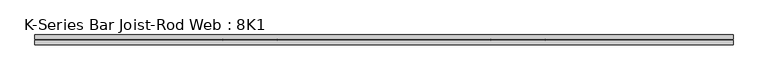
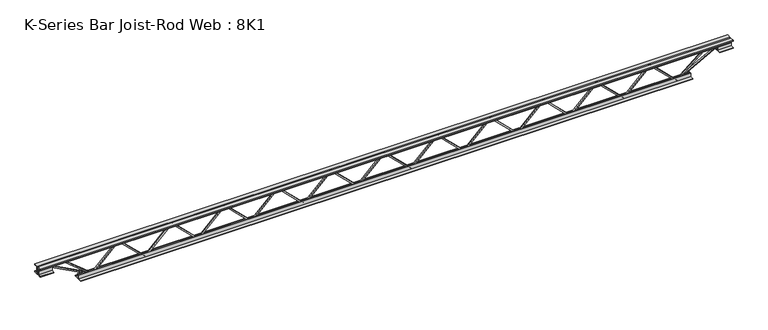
"""IFC4 building model written with IfcOpenShell, lengths in millimetres: beam geometry, K-Series Bar Joist-Rod Web : 8K1."""

from ifc_helpers import new_model, si_unit, frame, origin, place, context, project, spatial, polyline, outline, extrude, source, transform, mapped, element, save


def k_series_bar_joist_rod_web_8k1_28a673dc(model_context):
    return source(origin(), model_context, "Body", "SweptSolid", [
        extrude(outline(polyline([(-90.4875, 1404.3922228), (-100.0125, 1404.3922228), (-100.0125, 1409.5125828), (90.4875, 1603.7900432), (90.4875, 1606.2493231), (-100.0125, 1800.5267835), (-100.0125, 1805.6471436), (-90.4875, 1805.6471436), (-90.4875, 1804.4175036), (100.0125, 1610.1400432), (100.0125, 1599.8993231), (-90.4875, 1405.6218627), (-90.4875, 1404.3922228)])), frame((0.0, -4.7625, 0.0), z_axis=(0.0, 1.0, 0.0), x_axis=(0.0, 0.0, 1.0)), (0.0, 0.0, 1.0), 9.525),
        extrude(outline(polyline([(-90.4875, 1003.137302), (-100.0125, 1003.137302), (-100.0125, 1008.257662), (90.4875, 1202.5351224), (90.4875, 1204.9944023), (-100.0125, 1399.2718627), (-100.0125, 1404.3922228), (-90.4875, 1404.3922228), (-90.4875, 1403.1625828), (100.0125, 1208.8851224), (100.0125, 1198.6444023), (-90.4875, 1004.3669419), (-90.4875, 1003.137302)])), frame((0.0, -4.7625, 0.0), z_axis=(0.0, 1.0, 0.0), x_axis=(0.0, 0.0, 1.0)), (0.0, 0.0, 1.0), 9.525),
        extrude(outline(polyline([(-90.4875, 601.8823812), (-100.0125, 601.8823812), (-100.0125, 607.0027412), (90.4875, 801.2802016), (90.4875, 803.7394815), (-100.0125, 998.0169419), (-100.0125, 1003.137302), (-90.4875, 1003.137302), (-90.4875, 1001.907662), (100.0125, 807.6302016), (100.0125, 797.3894815), (-90.4875, 603.1120211), (-90.4875, 601.8823812)])), frame((0.0, -4.7625, 0.0), z_axis=(0.0, 1.0, 0.0), x_axis=(0.0, 0.0, 1.0)), (0.0, 0.0, 1.0), 9.525),
        extrude(outline(polyline([(-90.4875, 200.6274604), (-100.0125, 200.6274604), (-100.0125, 205.7478205), (90.4875, 400.0252809), (90.4875, 402.4845607), (-100.0125, 596.7620211), (-100.0125, 601.8823812), (-90.4875, 601.8823812), (-90.4875, 600.6527412), (100.0125, 406.3752809), (100.0125, 396.1345607), (-90.4875, 201.8571003), (-90.4875, 200.6274604)])), frame((0.0, -4.7625, 0.0), z_axis=(0.0, 1.0, 0.0), x_axis=(0.0, 0.0, 1.0)), (0.0, 0.0, 1.0), 9.525),
        extrude(outline(polyline([(-90.4875, -200.6274604), (-100.0125, -200.6274604), (-100.0125, -195.5071003), (90.4875, -1.2296399), (90.4875, 1.2296399), (-100.0125, 195.5071003), (-100.0125, 200.6274604), (-90.4875, 200.6274604), (-90.4875, 199.3978205), (100.0125, 5.1203601), (100.0125, -5.1203601), (-90.4875, -199.3978205), (-90.4875, -200.6274604)])), frame((0.0, -4.7625, 0.0), z_axis=(0.0, 1.0, 0.0), x_axis=(0.0, 0.0, 1.0)), (0.0, 0.0, 1.0), 9.525),
        extrude(outline(polyline([(-90.4875, -601.8823812), (-100.0125, -601.8823812), (-100.0125, -596.7620211), (90.4875, -402.4845607), (90.4875, -400.0252809), (-100.0125, -205.7478205), (-100.0125, -200.6274604), (-90.4875, -200.6274604), (-90.4875, -201.8571003), (100.0125, -396.1345607), (100.0125, -406.3752809), (-90.4875, -600.6527412), (-90.4875, -601.8823812)])), frame((0.0, -4.7625, 0.0), z_axis=(0.0, 1.0, 0.0), x_axis=(0.0, 0.0, 1.0)), (0.0, 0.0, 1.0), 9.525),
        extrude(outline(polyline([(-90.4875, -1003.137302), (-100.0125, -1003.137302), (-100.0125, -998.0169419), (90.4875, -803.7394815), (90.4875, -801.2802016), (-100.0125, -607.0027412), (-100.0125, -601.8823812), (-90.4875, -601.8823812), (-90.4875, -603.1120211), (100.0125, -797.3894815), (100.0125, -807.6302016), (-90.4875, -1001.907662), (-90.4875, -1003.137302)])), frame((0.0, -4.7625, 0.0), z_axis=(0.0, 1.0, 0.0), x_axis=(0.0, 0.0, 1.0)), (0.0, 0.0, 1.0), 9.525),
        extrude(outline(polyline([(-90.4875, -1404.3922228), (-100.0125, -1404.3922228), (-100.0125, -1399.2718627), (90.4875, -1204.9944023), (90.4875, -1202.5351224), (-100.0125, -1008.257662), (-100.0125, -1003.137302), (-90.4875, -1003.137302), (-90.4875, -1004.3669419), (100.0125, -1198.6444023), (100.0125, -1208.8851224), (-90.4875, -1403.1625828), (-90.4875, -1404.3922228)])), frame((0.0, -4.7625, 0.0), z_axis=(0.0, 1.0, 0.0), x_axis=(0.0, 0.0, 1.0)), (0.0, 0.0, 1.0), 9.525),
        extrude(outline(polyline([(-90.4875, -1805.6471436), (-100.0125, -1805.6471436), (-100.0125, -1800.5267835), (90.4875, -1606.2493231), (90.4875, -1603.7900432), (-100.0125, -1409.5125828), (-100.0125, -1404.3922228), (-90.4875, -1404.3922228), (-90.4875, -1405.6218627), (100.0125, -1599.8993231), (100.0125, -1610.1400432), (-90.4875, -1804.4175036), (-90.4875, -1805.6471436)])), frame((0.0, -4.7625, 0.0), z_axis=(0.0, 1.0, 0.0), x_axis=(0.0, 0.0, 1.0)), (0.0, 0.0, 1.0), 9.525),
        extrude(outline(polyline([(-90.4875, 1805.6471436), (-100.0125, 1805.6471436), (-100.0125, 1810.7675036), (90.4875, 2005.044964), (90.4875, 2007.5042439), (-100.0125, 2201.7817043), (-100.0125, 2206.9020644), (-90.4875, 2206.9020644), (-90.4875, 2205.6724244), (100.0125, 2011.394964), (100.0125, 2001.1542439), (-90.4875, 1806.8767835), (-90.4875, 1805.6471436)])), frame((0.0, -4.7625, 0.0), z_axis=(0.0, 1.0, 0.0), x_axis=(0.0, 0.0, 1.0)), (0.0, 0.0, 1.0), 9.525),
        extrude(outline(polyline([(-90.4875, -2206.9020644), (-100.0125, -2206.9020644), (-100.0125, -2201.7817043), (90.4875, -2007.5042439), (90.4875, -2005.044964), (-100.0125, -1810.7675036), (-100.0125, -1805.6471436), (-90.4875, -1805.6471436), (-90.4875, -1806.8767835), (100.0125, -2001.1542439), (100.0125, -2011.394964), (-90.4875, -2205.6724244), (-90.4875, -2206.9020644)])), frame((0.0, -4.7625, 0.0), z_axis=(0.0, 1.0, 0.0), x_axis=(0.0, 0.0, 1.0)), (0.0, 0.0, 1.0), 9.525),
        extrude(outline(polyline([(4.7625, 101.6), (36.5125, 101.6), (36.5125, 95.25), (11.1125, 95.25), (11.1125, 69.85), (4.7625, 69.85), (4.7625, 101.6)])), frame((-2613.3020644, 0.0, 0.0), z_axis=(1.0, 0.0, 0.0), x_axis=(0.0, 1.0, 0.0)), (0.0, 0.0, 1.0), 5226.6041288),
        extrude(outline(polyline([(-4.7625, 101.6), (-4.7625, 69.85), (-11.1125, 69.85), (-11.1125, 95.25), (-36.5125, 95.25), (-36.5125, 101.6), (-4.7625, 101.6)])), frame((-2613.3020644, 0.0, 0.0), z_axis=(1.0, 0.0, 0.0), x_axis=(0.0, 1.0, 0.0)), (0.0, 0.0, 1.0), 5226.6041288),
        extrude(outline(polyline([(-4.7625, 38.1), (-36.5125, 38.1), (-36.5125, 44.45), (-11.1125, 44.45), (-11.1125, 69.85), (-4.7625, 69.85), (-4.7625, 38.1)])), frame((-2613.3020644, 0.0, 0.0), z_axis=(1.0, 0.0, 0.0), x_axis=(0.0, 1.0, 0.0)), (0.0, 0.0, 1.0), 101.6),
        extrude(outline(polyline([(36.5125, 38.1), (4.7625, 38.1), (4.7625, 69.85), (11.1125, 69.85), (11.1125, 44.45), (36.5125, 44.45), (36.5125, 38.1)])), frame((-2613.3020644, 0.0, 0.0), z_axis=(1.0, 0.0, 0.0), x_axis=(0.0, 1.0, 0.0)), (0.0, 0.0, 1.0), 101.6),
        extrude(outline(polyline([(4.7625, 38.1), (4.7625, 69.85), (11.1125, 69.85), (11.1125, 44.45), (36.5125, 44.45), (36.5125, 38.1), (4.7625, 38.1)])), frame((2511.7020644, 0.0, 0.0), z_axis=(1.0, 0.0, 0.0), x_axis=(0.0, 1.0, 0.0)), (0.0, 0.0, 1.0), 101.6),
        extrude(outline(polyline([(-4.7625, 38.1), (-36.5125, 38.1), (-36.5125, 44.45), (-11.1125, 44.45), (-11.1125, 69.85), (-4.7625, 69.85), (-4.7625, 38.1)])), frame((2511.7020644, 0.0, 0.0), z_axis=(1.0, 0.0, 0.0), x_axis=(0.0, 1.0, 0.0)), (0.0, 0.0, 1.0), 101.6),
        extrude(outline(polyline([(4.7625, -101.6), (4.7625, -69.85), (11.1125, -69.85), (11.1125, -95.25), (36.5125, -95.25), (36.5125, -101.6), (4.7625, -101.6)])), frame((-2308.5020644, 0.0, 0.0), z_axis=(1.0, 0.0, 0.0), x_axis=(0.0, 1.0, 0.0)), (0.0, 0.0, 1.0), 4617.0041288),
        extrude(outline(polyline([(-4.7625, -101.6), (-36.5125, -101.6), (-36.5125, -95.25), (-11.1125, -95.25), (-11.1125, -69.85), (-4.7625, -69.85), (-4.7625, -101.6)])), frame((-2308.5020644, 0.0, 0.0), z_axis=(1.0, 0.0, 0.0), x_axis=(0.0, 1.0, 0.0)), (0.0, 0.0, 1.0), 4617.0041288),
        extrude(outline(polyline([(0.0, -9.525), (0.0, 0.0), (346.6425392, 0.0), (346.6425392, -9.525), (0.0, -9.525)])), frame((-2513.9703629, 4.7625, 65.662372), z_axis=(0.47628314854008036, 0.0, 0.8792919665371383), x_axis=(0.8792919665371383, 0.0, -0.47628314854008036)), (0.0, 0.0, 1.0), 9.525),
        extrude(outline(polyline([(0.0, -9.525), (0.0, 0.0), (259.8256875, 0.0), (259.8256875, -9.525), (0.0, -9.525)])), frame((-2410.5557412, 4.7625, 66.1725796), z_axis=(0.635426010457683, 0.0, 0.7721617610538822), x_axis=(0.7721617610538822, 0.0, -0.635426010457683)), (0.0, 0.0, 1.0), 9.525),
        extrude(outline(polyline([(0.0, -9.525), (0.0, 0.0), (346.6425392, 0.0), (346.6425392, -9.525), (0.0, -9.525)])), frame((2513.9703629, -4.7625, 65.662372), z_axis=(-0.4762831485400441, 0.0, 0.8792919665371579), x_axis=(-0.8792919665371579, 0.0, -0.4762831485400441)), (0.0, 0.0, 1.0), 9.525),
        extrude(outline(polyline([(0.0, -9.525), (0.0, 0.0), (259.8256875, 0.0), (259.8256875, -9.525), (0.0, -9.525)])), frame((2410.5557412, -4.7625, 66.1725796), z_axis=(-0.6354260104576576, 0.0, 0.772161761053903), x_axis=(-0.772161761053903, 0.0, -0.6354260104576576)), (0.0, 0.0, 1.0), 9.525),
    ])


if __name__ == "__main__":
    model = new_model("IFC4")
    model_context = context("Model", 3, world=origin())
    ifc_project = project(units=[si_unit("LENGTHUNIT", "METRE", prefix="MILLI")], contexts=[model_context])
    site = spatial("IfcSite", under=ifc_project)
    building = spatial("IfcBuilding", under=site)
    placement = place(None, origin())
    k_series_bar_joist_rod_web_8k1_shape = k_series_bar_joist_rod_web_8k1_28a673dc(model_context)
    element("IfcBeam", 1, ObjectType="K-Series Bar Joist-Rod Web : 8K1", at=placement, inside=building, context=model_context, shape_type="MappedRepresentation", body=[
        mapped(k_series_bar_joist_rod_web_8k1_shape, transform((0.0, 0.0, 0.0), x_axis=(1.0, 0.0, 0.0), y_axis=(0.0, 1.0, 0.0), z_axis=(0.0, 0.0, 1.0))),
    ])
    save(model, "model.ifc")
